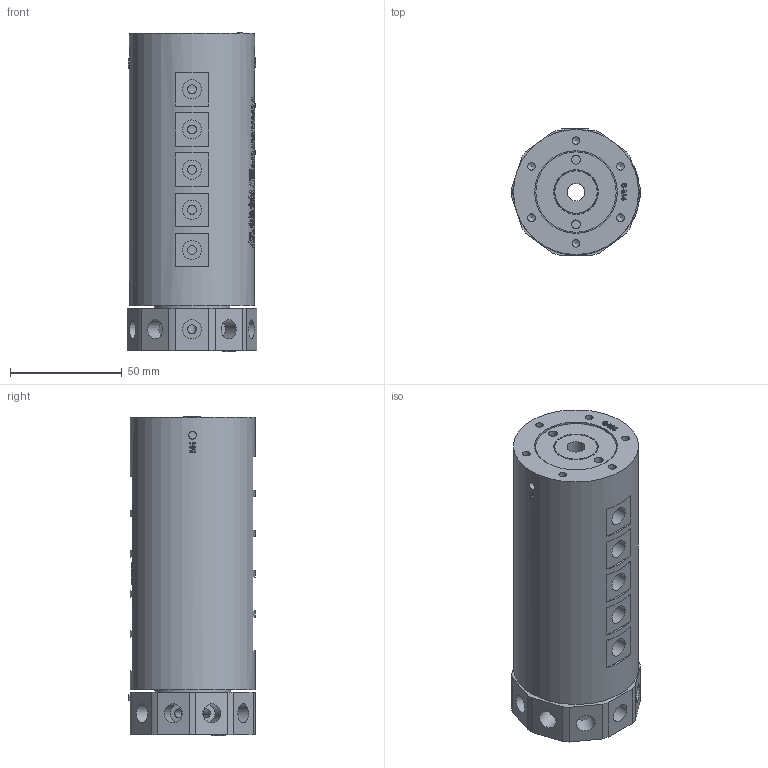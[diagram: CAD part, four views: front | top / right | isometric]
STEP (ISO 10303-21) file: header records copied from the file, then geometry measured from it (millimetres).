
FILE_DESCRIPTION(/* description */ (''),/* implementation_level */ '2;1');
FILE_NAME(/* name */ 'YQ1001.stp',/* time_stamp */ '2025-02-14T11:08:02+08:00',/* author */ (''),/* organization */ (''),/* preprocessor_version */ 'ST-DEVELOPER v16.7',/* originating_system */ 'SIEMENS PLM Software NX 12.0',/* authorisation */ '');
FILE_SCHEMA (('AUTOMOTIVE_DESIGN { 1 0 10303 214 3 1 1 1 }'));
Products named in the file (1): HX0540E8A2D8nfo6
Bounding box: 57.99 x 56.5 x 143 mm (x, y, z)
Volume: 325103.9 mm3; surface area: 51907.5 mm2
Topology: 1 solids, 2 shells, 1377 faces, 3666 edges, 2469 vertices
Faces by surface type: extrusion 653, plane 519, cylinder 133, bspline 59, cone 13
Full cylindrical faces by diameter (mm): 3.4 x12, 4 x32, 4.1 x10, 4.2 x10, 8 x1, 8.5 x20, 18 x1, 19 x1, 29 x1, 34 x1, 36 x1, 37 x1, 56 x1
Entity records: 51990 total; most frequent: CARTESIAN_POINT 23363, ORIENTED_EDGE 6952, EDGE_CURVE 3476, DIRECTION 3297, B_SPLINE_CURVE_WITH_KNOTS 3202, VERTEX_POINT 2400, EDGE_LOOP 1662, ADVANCED_FACE 1374
